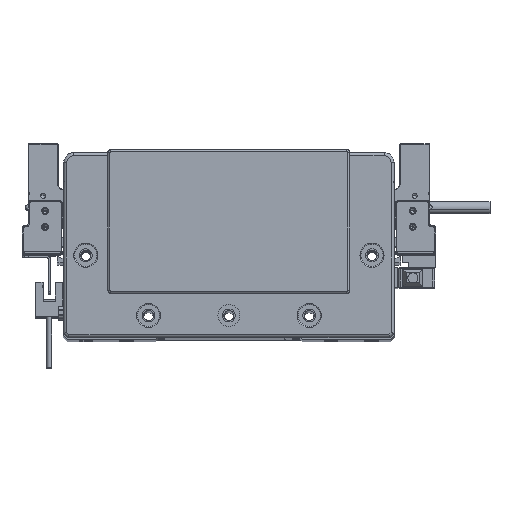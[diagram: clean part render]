
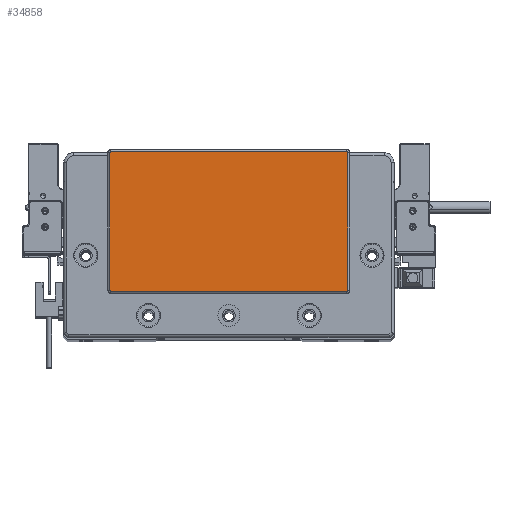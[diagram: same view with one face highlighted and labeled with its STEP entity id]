
A CAD part, top view. The second image highlights one B-rep face of the part: STEP entity #34858.
In plain terms, the highlighted planar face has unit normal (0, 0, 1) as drawn and (0, 0, -1) by its records, which use the part's own axes.
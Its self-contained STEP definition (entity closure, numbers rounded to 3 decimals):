
#121 = CIRCLE ( 'NONE', #28117, 0.5 ) ;
#231 = DIRECTION ( 'NONE',  ( -1., 0., 0. ) ) ;
#1583 = EDGE_CURVE ( 'NONE', #14750, #76358, #75028, .T. ) ;
#8683 = DIRECTION ( 'NONE',  ( 0., 0., -1. ) ) ;
#9440 = CARTESIAN_POINT ( 'NONE',  ( -58.75, -23.8, -2. ) ) ;
#9635 = DIRECTION ( 'NONE',  ( 0., 0., -1. ) ) ;
#12673 = EDGE_CURVE ( 'NONE', #26896, #14750, #83012, .T. ) ;
#12748 = VECTOR ( 'NONE', #52434, 1000. ) ;
#13821 = CARTESIAN_POINT ( 'NONE',  ( 58.75, 45.8, -2. ) ) ;
#14536 = PLANE ( 'NONE',  #35641 ) ;
#14750 = VERTEX_POINT ( 'NONE', #9440 ) ;
#15496 = CARTESIAN_POINT ( 'NONE',  ( -58.75, 45.8, -2. ) ) ;
#16469 = CARTESIAN_POINT ( 'NONE',  ( 58.75, 45.3, -2. ) ) ;
#19019 = VERTEX_POINT ( 'NONE', #22237 ) ;
#21349 = EDGE_CURVE ( 'NONE', #74122, #46920, #35665, .T. ) ;
#22237 = CARTESIAN_POINT ( 'NONE',  ( 59.25, -23.3, -2. ) ) ;
#24346 = CARTESIAN_POINT ( 'NONE',  ( 59.25, 45.3, -2. ) ) ;
#26896 = VERTEX_POINT ( 'NONE', #55085 ) ;
#27525 = CARTESIAN_POINT ( 'NONE',  ( -59.25, 45.3, -2. ) ) ;
#28010 = ORIENTED_EDGE ( 'NONE', *, *, #43211, .T. ) ;
#28117 = AXIS2_PLACEMENT_3D ( 'NONE', #59230, #37799, #30958 ) ;
#29613 = VERTEX_POINT ( 'NONE', #15496 ) ;
#30057 = CARTESIAN_POINT ( 'NONE',  ( 58.75, 45.8, -2. ) ) ;
#30958 = DIRECTION ( 'NONE',  ( -1., 0., 0. ) ) ;
#30995 = AXIS2_PLACEMENT_3D ( 'NONE', #16469, #9635, #39311 ) ;
#33769 = EDGE_CURVE ( 'NONE', #29613, #74122, #36695, .T. ) ;
#34858 = ADVANCED_FACE ( 'NONE', ( #60266 ), #14536, .T. ) ;
#35641 = AXIS2_PLACEMENT_3D ( 'NONE', #52986, #8683, #38355 ) ;
#35665 = CIRCLE ( 'NONE', #30995, 0.5 ) ;
#36383 = ORIENTED_EDGE ( 'NONE', *, *, #33769, .T. ) ;
#36695 = LINE ( 'NONE', #13821, #74300 ) ;
#37799 = DIRECTION ( 'NONE',  ( 0., 0., -1. ) ) ;
#38355 = DIRECTION ( 'NONE',  ( -1., 0., 0. ) ) ;
#39311 = DIRECTION ( 'NONE',  ( -1., 0., 0. ) ) ;
#40146 = DIRECTION ( 'NONE',  ( -1., 0., 0. ) ) ;
#40741 = AXIS2_PLACEMENT_3D ( 'NONE', #96282, #88985, #67991 ) ;
#41969 = ORIENTED_EDGE ( 'NONE', *, *, #65908, .T. ) ;
#43211 = EDGE_CURVE ( 'NONE', #47448, #29613, #79717, .T. ) ;
#43487 = DIRECTION ( 'NONE',  ( 1., 0., 0. ) ) ;
#44103 = LINE ( 'NONE', #58249, #62121 ) ;
#46055 = CARTESIAN_POINT ( 'NONE',  ( 59.25, -23.3, -2. ) ) ;
#46920 = VERTEX_POINT ( 'NONE', #24346 ) ;
#46984 = CARTESIAN_POINT ( 'NONE',  ( -58.75, -23.3, -2. ) ) ;
#47448 = VERTEX_POINT ( 'NONE', #27525 ) ;
#52350 = CARTESIAN_POINT ( 'NONE',  ( -58.75, -23.8, -2. ) ) ;
#52434 = DIRECTION ( 'NONE',  ( 0., -1., 0. ) ) ;
#52686 = ORIENTED_EDGE ( 'NONE', *, *, #12673, .T. ) ;
#52986 = CARTESIAN_POINT ( 'NONE',  ( 0., 0., -2. ) ) ;
#55085 = CARTESIAN_POINT ( 'NONE',  ( 58.75, -23.8, -2. ) ) ;
#58249 = CARTESIAN_POINT ( 'NONE',  ( -59.25, 45.3, -2. ) ) ;
#59230 = CARTESIAN_POINT ( 'NONE',  ( 58.75, -23.3, -2. ) ) ;
#60266 = FACE_OUTER_BOUND ( 'NONE', #77354, .T. ) ;
#62121 = VECTOR ( 'NONE', #66997, 1000. ) ;
#62561 = AXIS2_PLACEMENT_3D ( 'NONE', #46984, #70836, #40146 ) ;
#65742 = ORIENTED_EDGE ( 'NONE', *, *, #68112, .T. ) ;
#65908 = EDGE_CURVE ( 'NONE', #19019, #26896, #121, .T. ) ;
#66997 = DIRECTION ( 'NONE',  ( 0., 1., 0. ) ) ;
#67513 = LINE ( 'NONE', #46055, #12748 ) ;
#67991 = DIRECTION ( 'NONE',  ( -1., 0., 0. ) ) ;
#68112 = EDGE_CURVE ( 'NONE', #46920, #19019, #67513, .T. ) ;
#69735 = CARTESIAN_POINT ( 'NONE',  ( -59.25, -23.3, -2. ) ) ;
#70836 = DIRECTION ( 'NONE',  ( 0., 0., -1. ) ) ;
#74122 = VERTEX_POINT ( 'NONE', #30057 ) ;
#74300 = VECTOR ( 'NONE', #43487, 1000. ) ;
#75028 = CIRCLE ( 'NONE', #62561, 0.5 ) ;
#76358 = VERTEX_POINT ( 'NONE', #69735 ) ;
#77201 = VECTOR ( 'NONE', #231, 1000. ) ;
#77354 = EDGE_LOOP ( 'NONE', ( #65742, #41969, #52686, #83835, #81712, #28010, #36383, #92666 ) ) ;
#79717 = CIRCLE ( 'NONE', #40741, 0.5 ) ;
#81712 = ORIENTED_EDGE ( 'NONE', *, *, #88887, .T. ) ;
#83012 = LINE ( 'NONE', #52350, #77201 ) ;
#83835 = ORIENTED_EDGE ( 'NONE', *, *, #1583, .T. ) ;
#88887 = EDGE_CURVE ( 'NONE', #76358, #47448, #44103, .T. ) ;
#88985 = DIRECTION ( 'NONE',  ( 0., 0., -1. ) ) ;
#92666 = ORIENTED_EDGE ( 'NONE', *, *, #21349, .T. ) ;
#96282 = CARTESIAN_POINT ( 'NONE',  ( -58.75, 45.3, -2. ) ) ;
